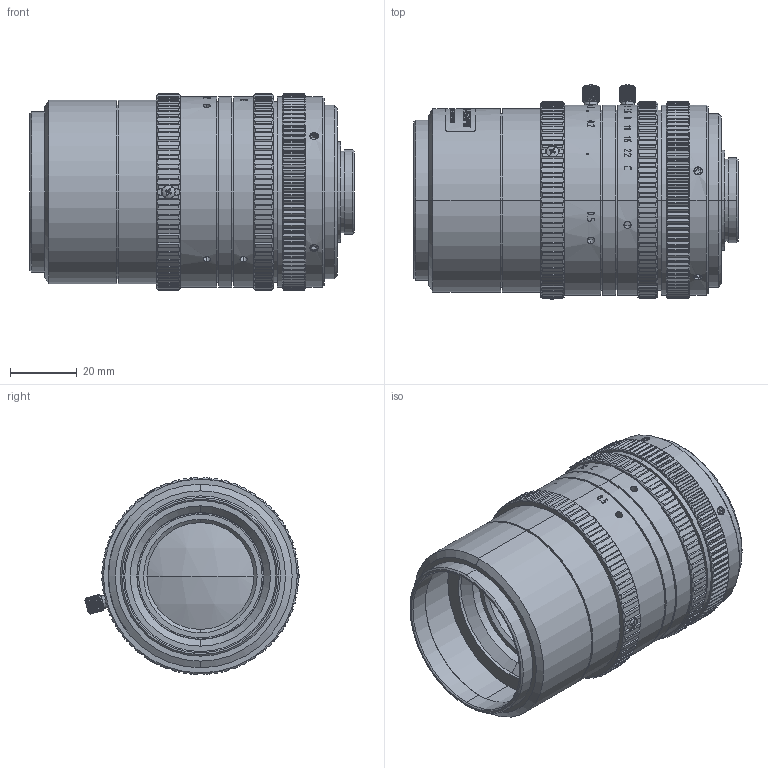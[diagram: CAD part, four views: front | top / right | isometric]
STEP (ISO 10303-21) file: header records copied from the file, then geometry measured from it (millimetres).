
FILE_DESCRIPTION (( 'STEP AP203' ), '1' );
FILE_NAME ('FJ1368-001(TEC-M55MPW)_Assy.STEP', '2016-09-06T06:06:21', ( '' ), ( '' ), 'SwSTEP 2.0', 'SolidWorks 2016', '' );
FILE_SCHEMA (( 'CONFIG_CONTROL_DESIGN' ));
Length unit declared in the file: millimetre
Products named in the file (30): FJ1368-132-R01; FJ1368-内部ﾒｶ部品群(簡易版); FJ1368-122-R00; hexagon socket set screw cup point_jis; FJ1368-130-R00; FJ1368-G01; FJ1368-124-R00; cross recessed pan head screw_jis; FJ1368-G08; FJ1368-125-R01; FJ1368-121-R01; cross recessed pan head screw_jis_JIS B 1111 Cross recessed pan head screw - M2 x 6 - Z --6N; hexagon socket set screw cup point_jis_JIS B 1177 Cup point M3 x 4 --N; FJ1368-001(TEC-M55MPW)_Assy
Assembly tree (18 placements, depth 2):
  FJ1368-132-R01
  FJ1368-内部ﾒｶ部品群(簡易版)
  hexagon socket set screw cup point_jis
  FJ1368-130-R00
  FJ1368-G01
Bounding box: 97.11 x 64.13 x 58.97 mm (x, y, z)
Volume: 139178.6 mm3; surface area: 102136.2 mm2
Topology: 19 solids, 25 shells, 2837 faces, 7640 edges, 5034 vertices
Faces by surface type: plane 1297, cylinder 893, bspline 473, cone 148, sphere 14, torus 12
Entity records: 116011 total; most frequent: CARTESIAN_POINT 55724, ORIENTED_EDGE 13834, DIRECTION 8976, EDGE_CURVE 6917, VERTEX_POINT 4584, B_SPLINE_CURVE_WITH_KNOTS 3477, AXIS2_PLACEMENT_3D 3446, EDGE_LOOP 2805
